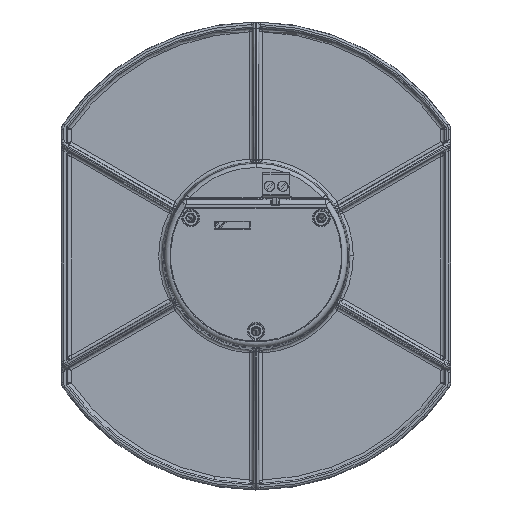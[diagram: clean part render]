
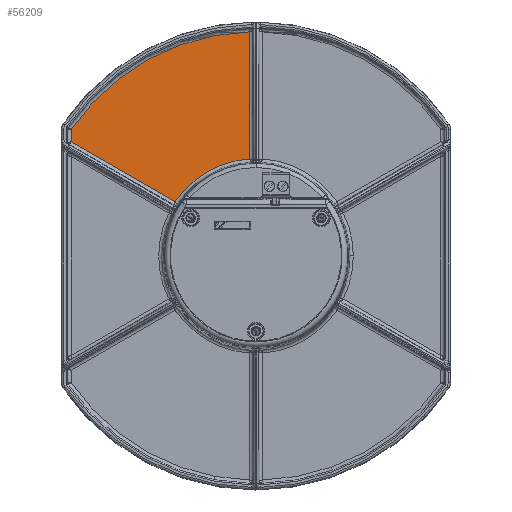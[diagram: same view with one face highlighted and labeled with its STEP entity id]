
A CAD part, top view. The second image highlights one B-rep face of the part: STEP entity #56209.
In plain terms, the highlighted planar face has unit normal (0, 0, 1).
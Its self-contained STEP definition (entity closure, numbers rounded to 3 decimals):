
#4135 = VERTEX_POINT ( 'NONE', #5463 ) ;
#4165 = EDGE_CURVE ( 'NONE', #40614, #7993, #19699, .T. ) ;
#5130 = EDGE_CURVE ( 'NONE', #72693, #7993, #80266, .T. ) ;
#5463 = CARTESIAN_POINT ( 'NONE',  ( -70.273, 48.126, 2.54 ) ) ;
#6608 = DIRECTION ( 'NONE',  ( 0., 0., 1. ) ) ;
#7187 = DIRECTION ( 'NONE',  ( 1., 0., 0. ) ) ;
#7845 = DIRECTION ( 'NONE',  ( 0., -1., 0. ) ) ;
#7993 = VERTEX_POINT ( 'NONE', #71826 ) ;
#8118 = CARTESIAN_POINT ( 'NONE',  ( -2.409, 85.139, 2.54 ) ) ;
#9725 = CARTESIAN_POINT ( 'NONE',  ( -70.273, 43.354, 2.54 ) ) ;
#11536 = CARTESIAN_POINT ( 'NONE',  ( -30.733, 20.526, 2.54 ) ) ;
#13380 = LINE ( 'NONE', #78122, #74961 ) ;
#13698 = CARTESIAN_POINT ( 'NONE',  ( -2.409, 85.139, 2.54 ) ) ;
#13790 = CARTESIAN_POINT ( 'NONE',  ( 0., 0., 2.54 ) ) ;
#15087 = LINE ( 'NONE', #9725, #54163 ) ;
#15507 = VECTOR ( 'NONE', #7845, 1000. ) ;
#16830 = CARTESIAN_POINT ( 'NONE',  ( -70.273, 43.354, 2.54 ) ) ;
#18917 = DIRECTION ( 'NONE',  ( 0., 0., -1. ) ) ;
#19699 = CIRCLE ( 'NONE', #67430, 36.957 ) ;
#20929 = CARTESIAN_POINT ( 'NONE',  ( 0., 0., 2.54 ) ) ;
#20974 = DIRECTION ( 'NONE',  ( 0., 0., 1. ) ) ;
#22465 = ORIENTED_EDGE ( 'NONE', *, *, #65209, .T. ) ;
#24083 = ORIENTED_EDGE ( 'NONE', *, *, #70684, .F. ) ;
#24686 = ORIENTED_EDGE ( 'NONE', *, *, #4165, .T. ) ;
#25973 = ORIENTED_EDGE ( 'NONE', *, *, #5130, .F. ) ;
#26669 = PLANE ( 'NONE',  #36896 ) ;
#34717 = ORIENTED_EDGE ( 'NONE', *, *, #42391, .T. ) ;
#36896 = AXIS2_PLACEMENT_3D ( 'NONE', #20929, #6608, #7187 ) ;
#40614 = VERTEX_POINT ( 'NONE', #11536 ) ;
#40759 = CIRCLE ( 'NONE', #60259, 85.173 ) ;
#42391 = EDGE_CURVE ( 'NONE', #80436, #40614, #13380, .T. ) ;
#51883 = CARTESIAN_POINT ( 'NONE',  ( 0., 0., 2.54 ) ) ;
#54163 = VECTOR ( 'NONE', #80936, 1000. ) ;
#56209 = ADVANCED_FACE ( 'NONE', ( #73057 ), #26669, .T. ) ;
#56683 = EDGE_LOOP ( 'NONE', ( #34717, #24686, #25973, #22465, #24083 ) ) ;
#60259 = AXIS2_PLACEMENT_3D ( 'NONE', #13790, #20974, #73177 ) ;
#65090 = DIRECTION ( 'NONE',  ( -0.832, 0.555, 0. ) ) ;
#65209 = EDGE_CURVE ( 'NONE', #72693, #4135, #40759, .T. ) ;
#67430 = AXIS2_PLACEMENT_3D ( 'NONE', #51883, #18917, #65090 ) ;
#70684 = EDGE_CURVE ( 'NONE', #80436, #4135, #15087, .T. ) ;
#71826 = CARTESIAN_POINT ( 'NONE',  ( -2.409, 36.879, 2.54 ) ) ;
#72693 = VERTEX_POINT ( 'NONE', #13698 ) ;
#73057 = FACE_OUTER_BOUND ( 'NONE', #56683, .T. ) ;
#73177 = DIRECTION ( 'NONE',  ( -0.028, 1., 0. ) ) ;
#74961 = VECTOR ( 'NONE', #77249, 1000. ) ;
#77249 = DIRECTION ( 'NONE',  ( 0.866, -0.5, 0. ) ) ;
#78122 = CARTESIAN_POINT ( 'NONE',  ( -70.273, 43.354, 2.54 ) ) ;
#80266 = LINE ( 'NONE', #8118, #15507 ) ;
#80436 = VERTEX_POINT ( 'NONE', #16830 ) ;
#80936 = DIRECTION ( 'NONE',  ( 0., 1., 0. ) ) ;
